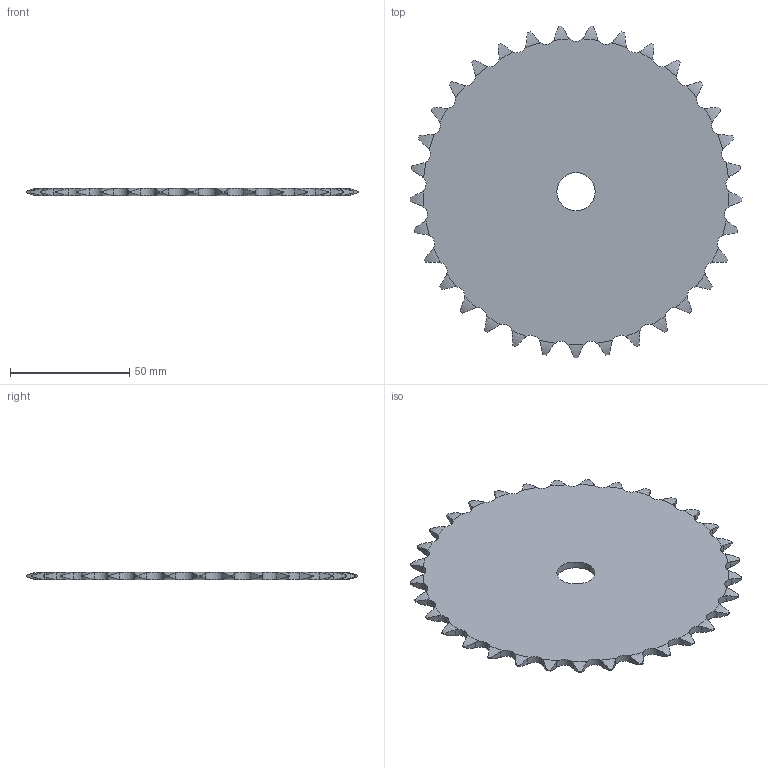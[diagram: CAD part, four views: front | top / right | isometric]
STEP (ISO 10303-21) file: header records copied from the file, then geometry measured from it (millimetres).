
FILE_DESCRIPTION((''),'2;1');
FILE_NAME('500-201-0033_PRT','2021-02-12T',('Brieden'),('Brieden'),'PRO/ENGINEER BY PARAMETRIC TECHNOLOGY CORPORATION, 2010160','PRO/ENGINEER BY PARAMETRIC TECHNOLOGY CORPORATION, 2010160','');
FILE_SCHEMA(('AUTOMOTIVE_DESIGN { 1 0 10303 214 1 1 1 1 }'));
Length unit declared in the file: millimetre
Products named in the file (1): 500-201-0033_PRT
Bounding box: 139.08 x 138.92 x 3 mm (x, y, z)
Volume: 39420.3 mm3; surface area: 28261.6 mm2
Topology: 1 solids, 1 shells, 202 faces, 600 edges, 400 vertices
Faces by surface type: cylinder 134, torus 66, plane 2
Entity records: 9822 total; most frequent: CARTESIAN_POINT 2855, ORIENTED_EDGE 1200, DIRECTION 942, PRESENTATION_STYLE_ASSIGNMENT 601, STYLED_ITEM 601, CURVE_STYLE 600, EDGE_CURVE 600, AXIS2_PLACEMENT_3D 404
